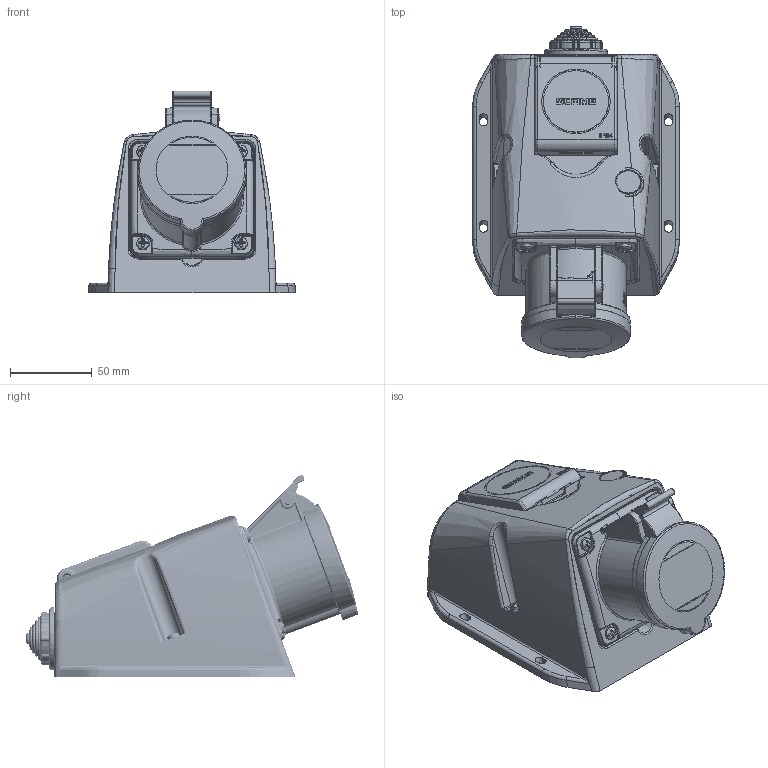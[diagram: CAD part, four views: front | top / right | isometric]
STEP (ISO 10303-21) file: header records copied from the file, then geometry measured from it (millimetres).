
FILE_DESCRIPTION(/* description */ (''),/* implementation_level */ '2;1');
FILE_NAME(/* name */ '4006863.stp',/* time_stamp */ '2021-01-11T08:31:51+01:00',/* author */ (''),/* organization */ (''),/* preprocessor_version */ 'ST-DEVELOPER v16.7',/* originating_system */ 'SIEMENS PLM Software NX 1946',/* authorisation */ '');
FILE_SCHEMA (('AUTOMOTIVE_DESIGN { 1 0 10303 214 3 1 1 1 }'));
Length unit declared in the file: millimetre
Products named in the file (1): BSOM3E24CA9Frfya
Bounding box: 126.5 x 203.07 x 123.53 mm (x, y, z)
Volume: 260839.2 mm3; surface area: 249230 mm2
Topology: 19 solids, 19 shells, 3988 faces, 10327 edges, 6381 vertices
Faces by surface type: plane 1446, bspline 945, cylinder 899, cone 251, extrusion 210, torus 140, sphere 97
Full cylindrical faces by diameter (mm): 0.2 x1, 0.4 x1, 0.998 x4, 2.3 x2, 2.8 x6, 3.2 x10, 4 x11, 4.1 x4, 4.3 x4, 5 x1, 5.1 x4, 7.1 x1, 7.6 x7, 30 x1, 30.5 x1, 31.998 x1, 32.5 x1, 38 x1
Entity records: 198026 total; most frequent: CARTESIAN_POINT 110229, ORIENTED_EDGE 19816, DIRECTION 15346, EDGE_CURVE 9908, VERTEX_POINT 6301, AXIS2_PLACEMENT_3D 5575, EDGE_LOOP 4416, VECTOR 4196
